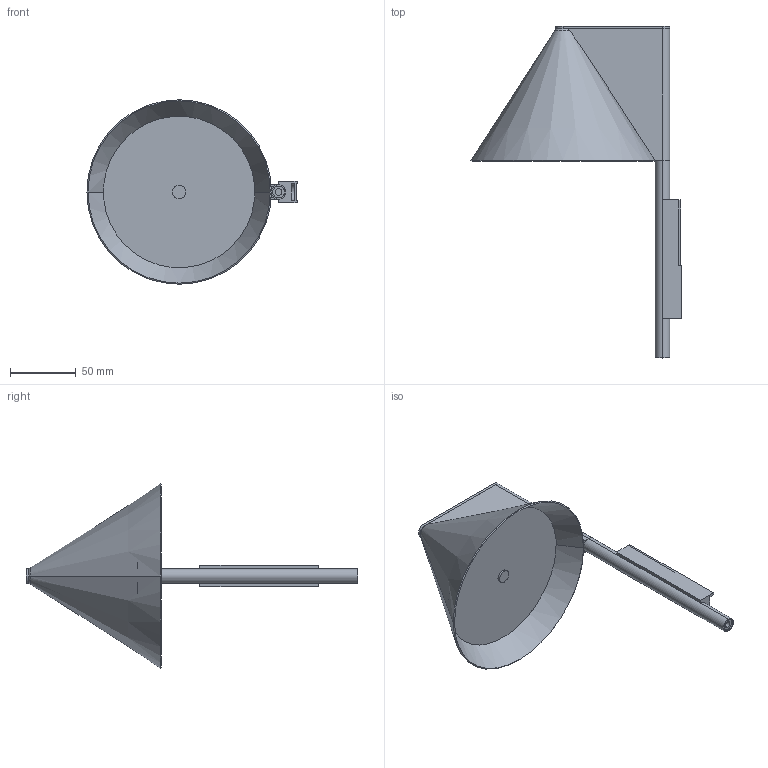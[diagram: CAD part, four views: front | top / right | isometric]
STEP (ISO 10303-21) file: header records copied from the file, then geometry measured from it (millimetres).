
FILE_DESCRIPTION (( 'STEP AP203' ), '1' );
FILE_NAME ('Vela Aplic Web.STEP', '2025-10-15T13:06:11', ( '' ), ( '' ), 'SwSTEP 2.0', 'SolidWorks 2013', '' );
FILE_SCHEMA (( 'CONFIG_CONTROL_DESIGN' ));
Length unit declared in the file: millimetre
Products named in the file (12): Vela Aplic Web; ME048.02_tub Ø11x150; ME042.01_Metal shade Ø140x100xØ11; ME049_Plate 50x16x1.5mm; ME048_Structure wall lamp_road+wing; ME045_Cargol fixació difusor; ME041.04_passamà soldat a ala 2T M3; ME041.05_Xapa superior ala 86.5x11 1P M4; ME041.01_Ala amb peces soldades; ME048.02_Suport fixat a tub aplic 16x12.3x90; ME041.01_Ala estructura taula; TC181_PMMA diffuser Ø113x3
Assembly tree (11 placements, depth 4):
  Vela Aplic Web
    ME048_Structure wall lamp_road+wing
      ME048.02_tub Ø11x150
      ME041.01_Ala amb peces soldades
        ME041.01_Ala estructura taula
        ME041.04_passamà soldat a ala 2T M3
        ME041.05_Xapa superior ala 86.5x11 1P M4
      ME048.02_Suport fixat a tub aplic 16x12.3x90
    ME042.01_Metal shade Ø140x100xØ11
    ME049_Plate 50x16x1.5mm
    TC181_PMMA diffuser Ø113x3
    ME045_Cargol fixació difusor
Bounding box: 159.5 x 252 x 140 mm (x, y, z)
Volume: 90114.8 mm3; surface area: 119949.7 mm2
Topology: 9 solids, 9 shells, 130 faces, 301 edges, 190 vertices
Faces by surface type: cylinder 54, plane 54, cone 16, torus 4, bspline 2
Entity records: 5605 total; most frequent: CARTESIAN_POINT 1255, DIRECTION 687, ORIENTED_EDGE 602, EDGE_CURVE 301, AXIS2_PLACEMENT_3D 262, VERTEX_POINT 190, VECTOR 163, LINE 163
